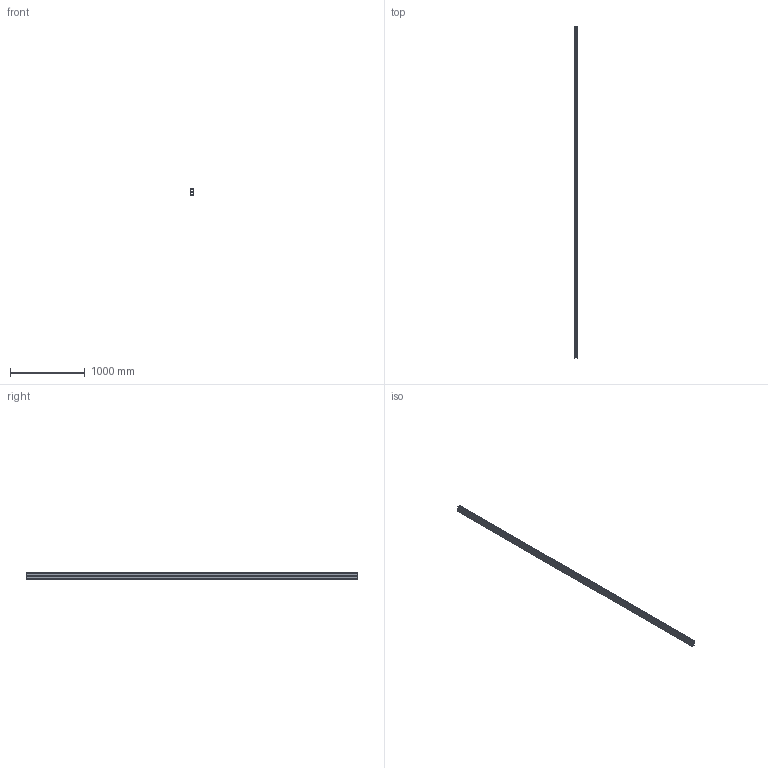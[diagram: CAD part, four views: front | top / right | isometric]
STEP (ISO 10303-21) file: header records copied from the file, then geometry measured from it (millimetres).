
FILE_DESCRIPTION(/* description */ ('','CAx-IF Rec.Pracs.---Representation and Presentation of Product Manufacturing Information (PMI)---4.0---2014-10-13'),/* implementation_level */ '2;1');
FILE_NAME(/* name */ 'GE-CDOD-41x83-L3000.step',/* time_stamp */ '2025-02-12T14:54:19+03:00',/* author */ (''),/* organization */ (''),/* preprocessor_version */ 'ST-DEVELOPER v20',/* originating_system */ 'Autodesk Translation Framework v13.20.0.188',/* authorisation */ '');
FILE_SCHEMA (('AP242_MANAGED_MODEL_BASED_3D_ENGINEERING_MIM_LF { 1 0 10303 442 1 1 4 }'));
Length unit declared in the file: millimetre
Products named in the file (1): GE-CDOD-41x83-L3000
Bounding box: 41 x 4435 x 82 mm (x, y, z)
Volume: 2820106.7 mm3; surface area: 2330363.3 mm2
Topology: 2 solids, 2 shells, 772 faces, 2304 edges, 1536 vertices
Faces by surface type: plane 392, cylinder 380
Entity records: 26892 total; most frequent: CARTESIAN_POINT 4613, DIRECTION 4610, ORIENTED_EDGE 4608, EDGE_CURVE 2304, LINE 1544, VECTOR 1544, VERTEX_POINT 1536, AXIS2_PLACEMENT_3D 1533
